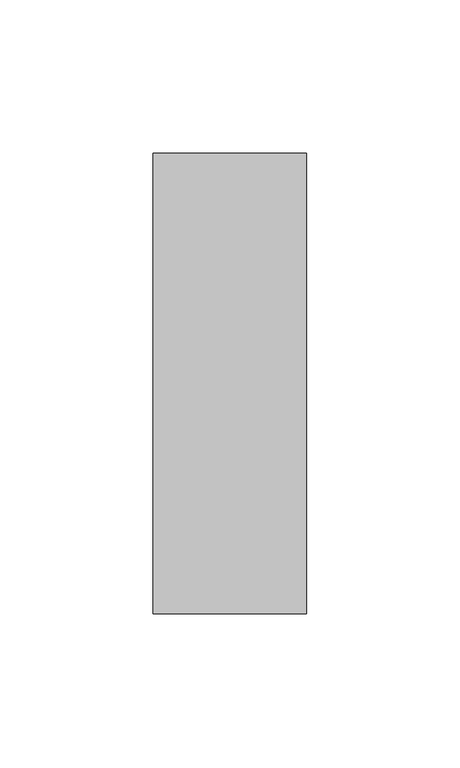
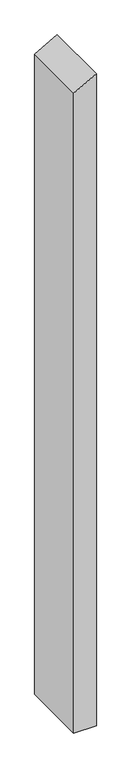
"""IFC4 building model written with IfcOpenShell, lengths in millimetres: member geometry, Прямоугольный импост : 50 x 150 мм."""

from ifc_helpers import new_model, si_unit, frame, origin, place, context, project, spatial, polyline, outline, extrude, source, transform, mapped, element, save


def member_07ff4386(model_context):
    return source(origin(), model_context, "Body", "SweptSolid", [
        extrude(outline(polyline([(0.0, 0.0), (-27.6566219, -50.0), (-1527.2833438, -50.0), (-1527.2833438, 0.0), (0.0, 0.0)])), frame((0.0, -75.0, 0.0), z_axis=(0.0, 1.0, 0.0), x_axis=(0.0, 0.0, 1.0)), (0.0, 0.0, 1.0), 150.0),
    ])


if __name__ == "__main__":
    model = new_model("IFC4")
    model_context = context("Model", 3, world=origin())
    ifc_project = project(units=[si_unit("LENGTHUNIT", "METRE", prefix="MILLI")], contexts=[model_context])
    site = spatial("IfcSite", under=ifc_project)
    building = spatial("IfcBuilding", under=site)
    placement = place(None, origin())
    member_shape = member_07ff4386(model_context)
    element("IfcMember", 1, ObjectType="Прямоугольный импост : 50 x 150 мм", at=placement, inside=building, context=model_context, shape_type="MappedRepresentation", body=[
        mapped(member_shape, transform((0.0, 0.0, 0.0), x_axis=(1.0, 0.0, 0.0), y_axis=(0.0, 1.0, 0.0), z_axis=(0.0, 0.0, 1.0))),
    ])
    save(model, "model.ifc")
